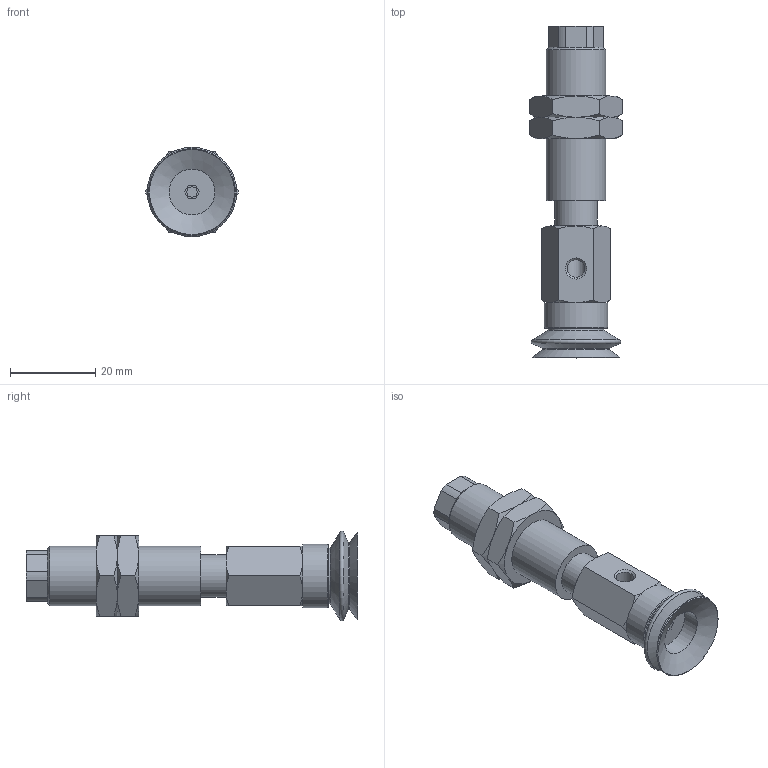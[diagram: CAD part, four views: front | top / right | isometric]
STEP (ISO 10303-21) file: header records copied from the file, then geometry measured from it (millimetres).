
FILE_DESCRIPTION(('STEP AP203'),'1');
FILE_NAME('.stp','2025-04-24T01:21:19',(' '),(' '),'Spatial InterOp 3D',' ',' ');
FILE_SCHEMA(('CONFIG_CONTROL_DESIGN'));
Length unit declared in the file: millimetre
Products named in the file (7): BNABPJYS-20-6-※; Adapter-20-NAPJ; CONNECTOR_S-20-6; NUT-NAPJ-20-6-s; NAPJTS-20-6-FBODY; NAPJTS-20-6-MBODY; BPJG-20-※
Assembly tree (7 placements, depth 2):
  BNABPJYS-20-6-※
    Adapter-20-NAPJ
    CONNECTOR_S-20-6
    NUT-NAPJ-20-6-s  x2
    NAPJTS-20-6-FBODY
    NAPJTS-20-6-MBODY
    BPJG-20-※
Bounding box: 21.94 x 78 x 21 mm (x, y, z)
Volume: 12794.1 mm3; surface area: 10366.8 mm2
Topology: 7 solids, 7 shells, 143 faces, 310 edges, 189 vertices
Faces by surface type: plane 60, cone 54, cylinder 22, torus 7
Full cylindrical faces by diameter (mm): 2.5 x1, 3 x1, 4.134 x3, 4.6 x1, 5 x2, 10 x2, 10.8 x1, 11 x1, 13.188 x2, 14 x1, 15 x1
Entity records: 3646 total; most frequent: CARTESIAN_POINT 866, DIRECTION 514, ORIENTED_EDGE 436, AXIS2_PLACEMENT_3D 220, EDGE_CURVE 218, EDGE_LOOP 176, VERTEX_POINT 154, FACE_OUTER_BOUND 142
